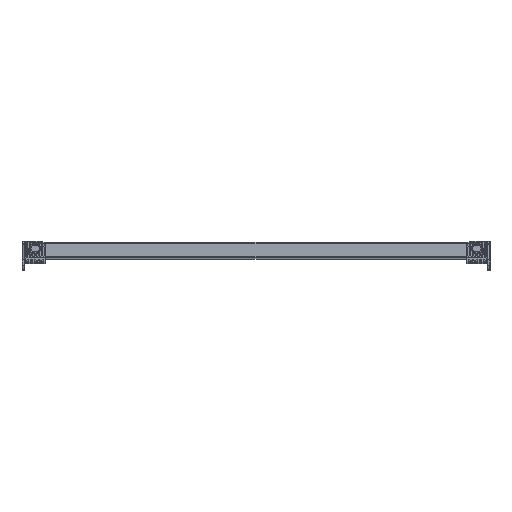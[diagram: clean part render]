
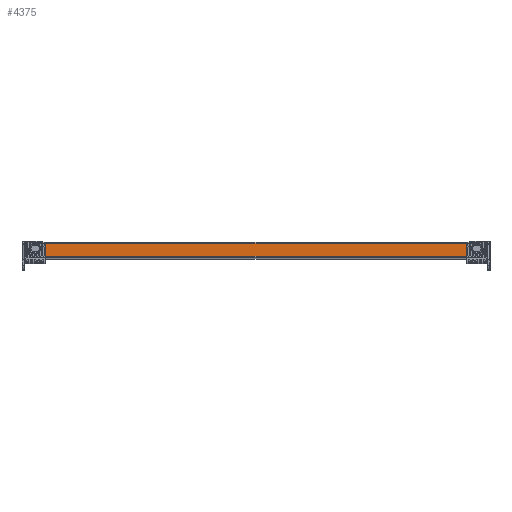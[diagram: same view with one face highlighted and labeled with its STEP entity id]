
A CAD part, top view. The second image highlights one B-rep face of the part: STEP entity #4375.
In plain terms, the highlighted planar face has unit normal (0, 0, 1).
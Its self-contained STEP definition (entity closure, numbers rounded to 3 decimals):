
#47 = DIRECTION ( 'NONE',  ( -1., 0., 0. ) ) ;
#74 = PLANE ( 'NONE',  #2447 ) ;
#564 = EDGE_CURVE ( 'NONE', #4806, #10259, #8320, .T. ) ;
#639 = VECTOR ( 'NONE', #47, 1000. ) ;
#815 = LINE ( 'NONE', #3047, #639 ) ;
#1052 = VERTEX_POINT ( 'NONE', #12578 ) ;
#1083 = LINE ( 'NONE', #9291, #11902 ) ;
#1291 = VECTOR ( 'NONE', #6895, 1000. ) ;
#2447 = AXIS2_PLACEMENT_3D ( 'NONE', #7392, #5634, #12903 ) ;
#3047 = CARTESIAN_POINT ( 'NONE',  ( 0., 0.737, 2. ) ) ;
#3096 = DIRECTION ( 'NONE',  ( 0., 1., 0. ) ) ;
#3213 = VECTOR ( 'NONE', #13294, 1000. ) ;
#4375 = ADVANCED_FACE ( 'NONE', ( #7551 ), #74, .F. ) ;
#4644 = ORIENTED_EDGE ( 'NONE', *, *, #8840, .T. ) ;
#4806 = VERTEX_POINT ( 'NONE', #7516 ) ;
#5041 = VERTEX_POINT ( 'NONE', #9377 ) ;
#5123 = EDGE_CURVE ( 'NONE', #1052, #5041, #815, .T. ) ;
#5415 = ORIENTED_EDGE ( 'NONE', *, *, #9523, .T. ) ;
#5634 = DIRECTION ( 'NONE',  ( 0., 0., -1. ) ) ;
#6683 = CARTESIAN_POINT ( 'NONE',  ( 29.071, 25.263, 2. ) ) ;
#6895 = DIRECTION ( 'NONE',  ( -1., 0., 0. ) ) ;
#7392 = CARTESIAN_POINT ( 'NONE',  ( 0., 0., 2. ) ) ;
#7516 = CARTESIAN_POINT ( 'NONE',  ( 855.929, 25.263, 2. ) ) ;
#7551 = FACE_OUTER_BOUND ( 'NONE', #11414, .T. ) ;
#8320 = LINE ( 'NONE', #12313, #1291 ) ;
#8466 = LINE ( 'NONE', #12263, #3213 ) ;
#8840 = EDGE_CURVE ( 'NONE', #10259, #5041, #8466, .T. ) ;
#9149 = ORIENTED_EDGE ( 'NONE', *, *, #5123, .F. ) ;
#9291 = CARTESIAN_POINT ( 'NONE',  ( 855.929, 27.255, 2. ) ) ;
#9377 = CARTESIAN_POINT ( 'NONE',  ( 29.071, 0.737, 2. ) ) ;
#9523 = EDGE_CURVE ( 'NONE', #1052, #4806, #1083, .T. ) ;
#9589 = ORIENTED_EDGE ( 'NONE', *, *, #564, .T. ) ;
#10259 = VERTEX_POINT ( 'NONE', #6683 ) ;
#11414 = EDGE_LOOP ( 'NONE', ( #5415, #9589, #4644, #9149 ) ) ;
#11902 = VECTOR ( 'NONE', #3096, 1000. ) ;
#12263 = CARTESIAN_POINT ( 'NONE',  ( 29.071, 27.255, 2. ) ) ;
#12313 = CARTESIAN_POINT ( 'NONE',  ( 884.929, 25.263, 2. ) ) ;
#12578 = CARTESIAN_POINT ( 'NONE',  ( 855.929, 0.737, 2. ) ) ;
#12903 = DIRECTION ( 'NONE',  ( -1., 0., 0. ) ) ;
#13294 = DIRECTION ( 'NONE',  ( 0., -1., 0. ) ) ;
